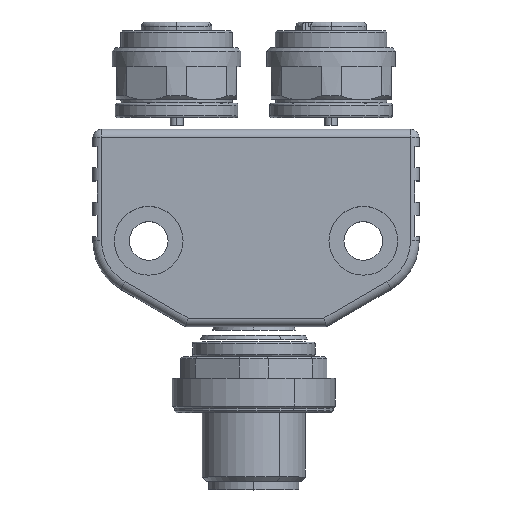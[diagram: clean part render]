
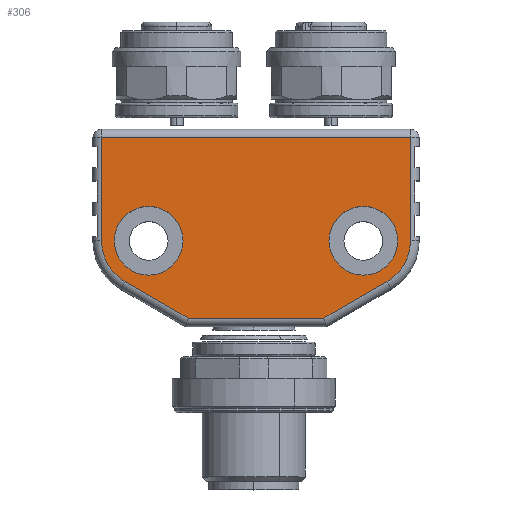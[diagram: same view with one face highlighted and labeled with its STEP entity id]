
A CAD part, top view. The second image highlights one B-rep face of the part: STEP entity #306.
In plain terms, the highlighted planar face has unit normal (0, 0, 1).
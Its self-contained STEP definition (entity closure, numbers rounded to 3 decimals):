
#77 = LINE ( 'NONE', #4343, #12086 ) ;
#306 = ADVANCED_FACE ( 'NONE', ( #1693, #8303, #4427 ), #6357, .F. ) ;
#500 = DIRECTION ( 'NONE',  ( 0., -1., 0. ) ) ;
#507 = ORIENTED_EDGE ( 'NONE', *, *, #984, .T. ) ;
#558 = ORIENTED_EDGE ( 'NONE', *, *, #10565, .F. ) ;
#764 = ORIENTED_EDGE ( 'NONE', *, *, #10748, .F. ) ;
#826 = LINE ( 'NONE', #8178, #1172 ) ;
#984 = EDGE_CURVE ( 'NONE', #8754, #3306, #77, .T. ) ;
#990 = CARTESIAN_POINT ( 'NONE',  ( 3., -10.9, 4.516 ) ) ;
#1063 = AXIS2_PLACEMENT_3D ( 'NONE', #10767, #3794, #11908 ) ;
#1068 = EDGE_CURVE ( 'NONE', #6821, #12695, #4812, .T. ) ;
#1089 = ORIENTED_EDGE ( 'NONE', *, *, #1068, .F. ) ;
#1172 = VECTOR ( 'NONE', #5870, 1000. ) ;
#1597 = DIRECTION ( 'NONE',  ( 0., 0., 1. ) ) ;
#1693 = FACE_BOUND ( 'NONE', #13081, .T. ) ;
#1832 = LINE ( 'NONE', #14977, #7720 ) ;
#1886 = CARTESIAN_POINT ( 'NONE',  ( -2.5, -6.9, 4.516 ) ) ;
#1987 = VECTOR ( 'NONE', #10982, 1000. ) ;
#2179 = DIRECTION ( 'NONE',  ( 0., 1., 0. ) ) ;
#2242 = CARTESIAN_POINT ( 'NONE',  ( 3., -6.9, 4.516 ) ) ;
#2686 = CARTESIAN_POINT ( 'NONE',  ( 19., -22.488, 4.516 ) ) ;
#2690 = CIRCLE ( 'NONE', #2851, 4. ) ;
#2851 = AXIS2_PLACEMENT_3D ( 'NONE', #6574, #14673, #7726 ) ;
#2942 = VERTEX_POINT ( 'NONE', #10868 ) ;
#3219 = DIRECTION ( 'NONE',  ( -1., 0., 0. ) ) ;
#3306 = VERTEX_POINT ( 'NONE', #12407 ) ;
#3396 = EDGE_CURVE ( 'NONE', #2942, #8754, #1832, .T. ) ;
#3417 = DIRECTION ( 'NONE',  ( 0., 1., 0. ) ) ;
#3591 = AXIS2_PLACEMENT_3D ( 'NONE', #8632, #1597, #9784 ) ;
#3794 = DIRECTION ( 'NONE',  ( 0., 0., 1. ) ) ;
#3884 = CARTESIAN_POINT ( 'NONE',  ( 28., -6.9, 4.516 ) ) ;
#3979 = CARTESIAN_POINT ( 'NONE',  ( 0.25, -11.663, 4.516 ) ) ;
#4129 = EDGE_CURVE ( 'NONE', #4458, #12654, #5115, .T. ) ;
#4133 = EDGE_LOOP ( 'NONE', ( #5276, #11981, #7660, #507, #6724, #8535, #10307, #11000 ) ) ;
#4343 = CARTESIAN_POINT ( 'NONE',  ( 28., 5.1, 4.516 ) ) ;
#4427 = FACE_OUTER_BOUND ( 'NONE', #4133, .T. ) ;
#4458 = VERTEX_POINT ( 'NONE', #10519 ) ;
#4571 = ORIENTED_EDGE ( 'NONE', *, *, #8311, .F. ) ;
#4802 = EDGE_CURVE ( 'NONE', #3306, #14540, #14560, .T. ) ;
#4812 = CIRCLE ( 'NONE', #6892, 4. ) ;
#5041 = DIRECTION ( 'NONE',  ( 0.866, -0.5, 0. ) ) ;
#5060 = DIRECTION ( 'NONE',  ( 0., 1., 0. ) ) ;
#5115 = LINE ( 'NONE', #8705, #1987 ) ;
#5138 = CARTESIAN_POINT ( 'NONE',  ( 33.5, 5.1, 4.516 ) ) ;
#5276 = ORIENTED_EDGE ( 'NONE', *, *, #7184, .T. ) ;
#5730 = DIRECTION ( 'NONE',  ( 0., 0., 1. ) ) ;
#5765 = CIRCLE ( 'NONE', #1063, 5.5 ) ;
#5870 = DIRECTION ( 'NONE',  ( 0.866, 0.5, 0. ) ) ;
#6321 = CIRCLE ( 'NONE', #13496, 4. ) ;
#6357 = PLANE ( 'NONE',  #13950 ) ;
#6364 = EDGE_CURVE ( 'NONE', #14540, #9716, #10692, .T. ) ;
#6574 = CARTESIAN_POINT ( 'NONE',  ( 3., -6.9, 4.516 ) ) ;
#6724 = ORIENTED_EDGE ( 'NONE', *, *, #4802, .T. ) ;
#6751 = VERTEX_POINT ( 'NONE', #9509 ) ;
#6821 = VERTEX_POINT ( 'NONE', #9720 ) ;
#6892 = AXIS2_PLACEMENT_3D ( 'NONE', #12661, #5730, #13844 ) ;
#6912 = CARTESIAN_POINT ( 'NONE',  ( 23.412, -15.9, 4.516 ) ) ;
#7184 = EDGE_CURVE ( 'NONE', #12654, #6751, #826, .T. ) ;
#7360 = EDGE_CURVE ( 'NONE', #9716, #4458, #13376, .T. ) ;
#7511 = DIRECTION ( 'NONE',  ( 0., 0., -1. ) ) ;
#7660 = ORIENTED_EDGE ( 'NONE', *, *, #3396, .T. ) ;
#7720 = VECTOR ( 'NONE', #2179, 1000. ) ;
#7726 = DIRECTION ( 'NONE',  ( 0., 1., 0. ) ) ;
#7799 = DIRECTION ( 'NONE',  ( 0., -1., 0. ) ) ;
#7865 = EDGE_CURVE ( 'NONE', #6751, #2942, #5765, .T. ) ;
#8178 = CARTESIAN_POINT ( 'NONE',  ( 30.75, -11.663, 4.516 ) ) ;
#8303 = FACE_BOUND ( 'NONE', #11758, .T. ) ;
#8311 = EDGE_CURVE ( 'NONE', #8896, #14488, #2690, .T. ) ;
#8535 = ORIENTED_EDGE ( 'NONE', *, *, #6364, .T. ) ;
#8632 = CARTESIAN_POINT ( 'NONE',  ( 3., -6.9, 4.516 ) ) ;
#8649 = CARTESIAN_POINT ( 'NONE',  ( 28., -6.9, 4.516 ) ) ;
#8705 = CARTESIAN_POINT ( 'NONE',  ( 28., -15.9, 4.516 ) ) ;
#8754 = VERTEX_POINT ( 'NONE', #5138 ) ;
#8896 = VERTEX_POINT ( 'NONE', #14706 ) ;
#9509 = CARTESIAN_POINT ( 'NONE',  ( 30.75, -11.663, 4.516 ) ) ;
#9716 = VERTEX_POINT ( 'NONE', #3979 ) ;
#9720 = CARTESIAN_POINT ( 'NONE',  ( 28., -10.9, 4.516 ) ) ;
#9784 = DIRECTION ( 'NONE',  ( 0., -1., 0. ) ) ;
#10307 = ORIENTED_EDGE ( 'NONE', *, *, #7360, .T. ) ;
#10308 = VECTOR ( 'NONE', #5041, 1000. ) ;
#10409 = DIRECTION ( 'NONE',  ( 0., 0., 1. ) ) ;
#10471 = CARTESIAN_POINT ( 'NONE',  ( -2.5, -6.9, 4.516 ) ) ;
#10519 = CARTESIAN_POINT ( 'NONE',  ( 7.588, -15.9, 4.516 ) ) ;
#10565 = EDGE_CURVE ( 'NONE', #14488, #8896, #6321, .T. ) ;
#10692 = CIRCLE ( 'NONE', #3591, 5.5 ) ;
#10748 = EDGE_CURVE ( 'NONE', #12695, #6821, #12983, .T. ) ;
#10767 = CARTESIAN_POINT ( 'NONE',  ( 28., -6.9, 4.516 ) ) ;
#10868 = CARTESIAN_POINT ( 'NONE',  ( 33.5, -6.9, 4.516 ) ) ;
#10982 = DIRECTION ( 'NONE',  ( 1., 0., 0. ) ) ;
#11000 = ORIENTED_EDGE ( 'NONE', *, *, #4129, .T. ) ;
#11431 = VECTOR ( 'NONE', #7799, 1000. ) ;
#11758 = EDGE_LOOP ( 'NONE', ( #4571, #558 ) ) ;
#11908 = DIRECTION ( 'NONE',  ( 0., -1., 0. ) ) ;
#11981 = ORIENTED_EDGE ( 'NONE', *, *, #7865, .T. ) ;
#11996 = DIRECTION ( 'NONE',  ( 0., 0., 1. ) ) ;
#12086 = VECTOR ( 'NONE', #3219, 1000. ) ;
#12404 = AXIS2_PLACEMENT_3D ( 'NONE', #3884, #11996, #5060 ) ;
#12407 = CARTESIAN_POINT ( 'NONE',  ( -2.5, 5.1, 4.516 ) ) ;
#12654 = VERTEX_POINT ( 'NONE', #6912 ) ;
#12661 = CARTESIAN_POINT ( 'NONE',  ( 28., -6.9, 4.516 ) ) ;
#12695 = VERTEX_POINT ( 'NONE', #15122 ) ;
#12983 = CIRCLE ( 'NONE', #12404, 4. ) ;
#13081 = EDGE_LOOP ( 'NONE', ( #764, #1089 ) ) ;
#13376 = LINE ( 'NONE', #2686, #10308 ) ;
#13496 = AXIS2_PLACEMENT_3D ( 'NONE', #2242, #10409, #3417 ) ;
#13844 = DIRECTION ( 'NONE',  ( 0., 1., 0. ) ) ;
#13950 = AXIS2_PLACEMENT_3D ( 'NONE', #8649, #7511, #500 ) ;
#14488 = VERTEX_POINT ( 'NONE', #990 ) ;
#14540 = VERTEX_POINT ( 'NONE', #10471 ) ;
#14560 = LINE ( 'NONE', #1886, #11431 ) ;
#14673 = DIRECTION ( 'NONE',  ( 0., 0., 1. ) ) ;
#14706 = CARTESIAN_POINT ( 'NONE',  ( 3., -2.9, 4.516 ) ) ;
#14977 = CARTESIAN_POINT ( 'NONE',  ( 33.5, -6.9, 4.516 ) ) ;
#15122 = CARTESIAN_POINT ( 'NONE',  ( 28., -2.9, 4.516 ) ) ;
